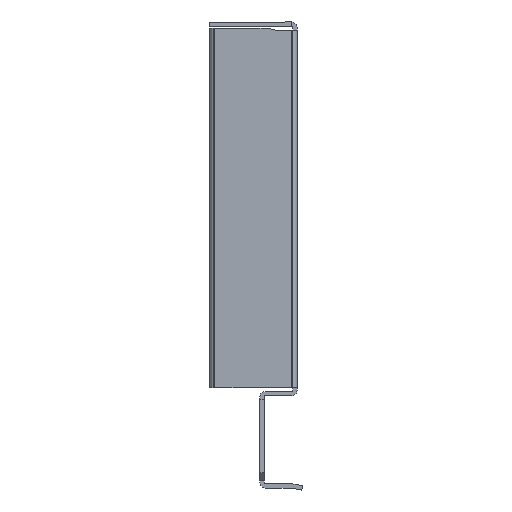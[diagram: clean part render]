
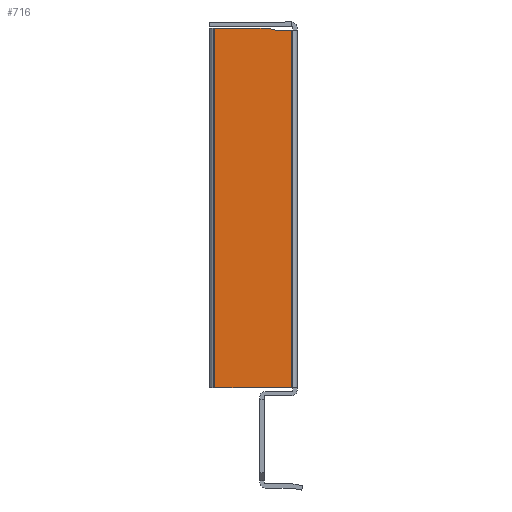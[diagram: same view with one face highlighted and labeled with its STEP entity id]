
A CAD part, left-side view. The second image highlights one B-rep face of the part: STEP entity #716.
In plain terms, the highlighted planar face has unit normal (-1, 0, 0).
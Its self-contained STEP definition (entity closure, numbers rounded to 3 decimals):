
#37 = VERTEX_POINT ( 'NONE', #496 ) ;
#38 = DIRECTION ( 'NONE',  ( 0., -1., 0. ) ) ;
#39 = DIRECTION ( 'NONE',  ( -1., 0., 0. ) ) ;
#40 = CARTESIAN_POINT ( 'NONE',  ( -405., -5., 101.385 ) ) ;
#41 = PLANE ( 'NONE',  #1245 ) ;
#46 = VERTEX_POINT ( 'NONE', #492 ) ;
#176 = VERTEX_POINT ( 'NONE', #448 ) ;
#225 = VERTEX_POINT ( 'NONE', #430 ) ;
#264 = DIRECTION ( 'NONE',  ( 0., 0., -1. ) ) ;
#265 = CARTESIAN_POINT ( 'NONE',  ( -405., -5., 101.385 ) ) ;
#267 = DIRECTION ( 'NONE',  ( 0., -0.966, -0.259 ) ) ;
#268 = CARTESIAN_POINT ( 'NONE',  ( -405., 0.612, 83.2 ) ) ;
#270 = DIRECTION ( 'NONE',  ( 0., -1., 0. ) ) ;
#271 = CARTESIAN_POINT ( 'NONE',  ( -405., -2., 82.5 ) ) ;
#273 = DIRECTION ( 'NONE',  ( 0., 0., -1. ) ) ;
#276 = CARTESIAN_POINT ( 'NONE',  ( -405., 9., 101.385 ) ) ;
#308 = DIRECTION ( 'NONE',  ( 0., 1., 0. ) ) ;
#309 = CARTESIAN_POINT ( 'NONE',  ( -405., -5., 82.9 ) ) ;
#362 = CARTESIAN_POINT ( 'NONE',  ( -405., 9., 82.9 ) ) ;
#363 = CARTESIAN_POINT ( 'NONE',  ( -405., -5., 82.5 ) ) ;
#430 = CARTESIAN_POINT ( 'NONE',  ( -405., -5., 17.5 ) ) ;
#448 = CARTESIAN_POINT ( 'NONE',  ( -405., 9., 17.5 ) ) ;
#492 = CARTESIAN_POINT ( 'NONE',  ( -405., -2., 82.5 ) ) ;
#496 = CARTESIAN_POINT ( 'NONE',  ( -405., -0.507, 82.9 ) ) ;
#547 = VERTEX_POINT ( 'NONE', #363 ) ;
#548 = VERTEX_POINT ( 'NONE', #362 ) ;
#575 = EDGE_CURVE ( 'NONE', #37, #548, #1969, .T. ) ;
#584 = EDGE_CURVE ( 'NONE', #548, #176, #1983, .T. ) ;
#585 = EDGE_CURVE ( 'NONE', #46, #547, #1986, .T. ) ;
#586 = EDGE_CURVE ( 'NONE', #37, #46, #1988, .T. ) ;
#587 = EDGE_CURVE ( 'NONE', #547, #225, #1990, .T. ) ;
#716 = ADVANCED_FACE ( 'NONE', ( #2047 ), #41, .T. ) ;
#778 = EDGE_CURVE ( 'NONE', #225, #176, #2135, .T. ) ;
#987 = EDGE_LOOP ( 'NONE', ( #1843, #1844, #1845, #1846, #1847, #1848 ) ) ;
#1245 = AXIS2_PLACEMENT_3D ( 'NONE', #40, #39, #38 ) ;
#1481 = DIRECTION ( 'NONE',  ( 0., 1., 0. ) ) ;
#1482 = CARTESIAN_POINT ( 'NONE',  ( -405., -5., 17.5 ) ) ;
#1843 = ORIENTED_EDGE ( 'NONE', *, *, #585, .F. ) ;
#1844 = ORIENTED_EDGE ( 'NONE', *, *, #586, .F. ) ;
#1845 = ORIENTED_EDGE ( 'NONE', *, *, #575, .T. ) ;
#1846 = ORIENTED_EDGE ( 'NONE', *, *, #584, .T. ) ;
#1847 = ORIENTED_EDGE ( 'NONE', *, *, #778, .F. ) ;
#1848 = ORIENTED_EDGE ( 'NONE', *, *, #587, .F. ) ;
#1969 = LINE ( 'NONE', #309, #1971 ) ;
#1971 = VECTOR ( 'NONE', #308, 1000. ) ;
#1983 = LINE ( 'NONE', #276, #1985 ) ;
#1985 = VECTOR ( 'NONE', #273, 1000. ) ;
#1986 = LINE ( 'NONE', #271, #1987 ) ;
#1987 = VECTOR ( 'NONE', #270, 1000. ) ;
#1988 = LINE ( 'NONE', #268, #1989 ) ;
#1989 = VECTOR ( 'NONE', #267, 1000. ) ;
#1990 = LINE ( 'NONE', #265, #1991 ) ;
#1991 = VECTOR ( 'NONE', #264, 1000. ) ;
#2047 = FACE_OUTER_BOUND ( 'NONE', #987, .T. ) ;
#2135 = LINE ( 'NONE', #1482, #2137 ) ;
#2137 = VECTOR ( 'NONE', #1481, 1000. ) ;
